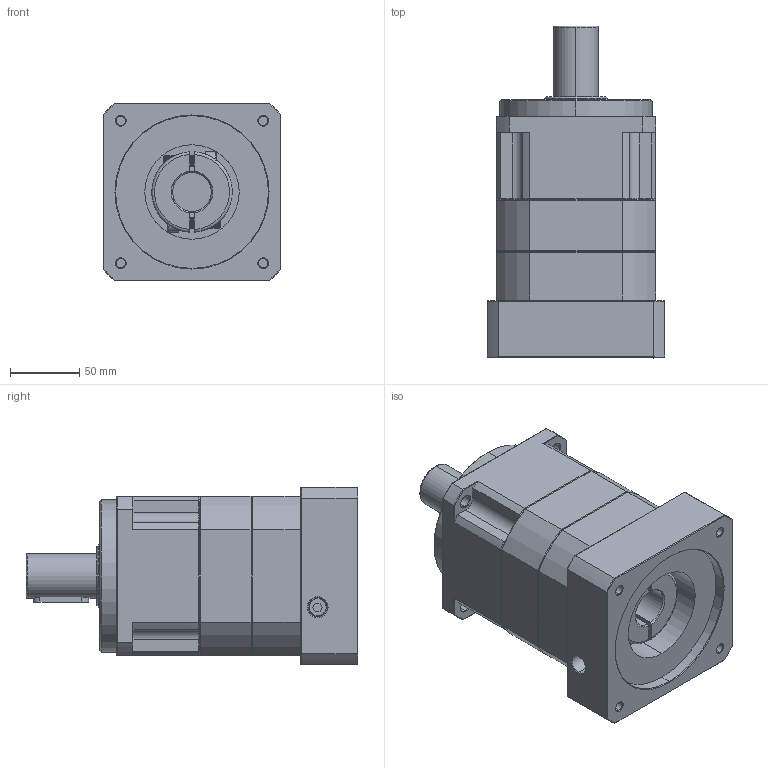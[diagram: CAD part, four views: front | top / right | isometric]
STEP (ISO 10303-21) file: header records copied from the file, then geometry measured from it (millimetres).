
FILE_DESCRIPTION (( 'STEP AP214' ), '1' );
FILE_NAME ('ZPB115-D32-L2-P1-28-110-145-M8.step', '2024-06-11T19:32:52', ( 'Windows 蚚誧' ), ( 'Organization' ), 'SwSTEP 2.0', 'SolidWorks 2016', '' );
FILE_SCHEMA (( 'AUTOMOTIVE_DESIGN' ));
Length unit declared in the file: millimetre
Products named in the file (1): ZPB115-D32-L2-P1-28-110-145-M8
Bounding box: 128 x 239 x 128 mm (x, y, z)
Surface area: 160079.4 mm2 (no closed solid volume)
Topology: 0 solids, 29 shells, 1807 faces, 4894 edges, 3147 vertices
Faces by surface type: plane 928, bspline 381, cone 274, cylinder 224
Full cylindrical faces by diameter (mm): 10.2 x1
Entity records: 98304 total; most frequent: CARTESIAN_POINT 49191, ORIENTED_EDGE 9758, DIRECTION 7469, EDGE_CURVE 4888, LINE 3161, VECTOR 3161, VERTEX_POINT 3145, AXIS2_PLACEMENT_3D 2154
